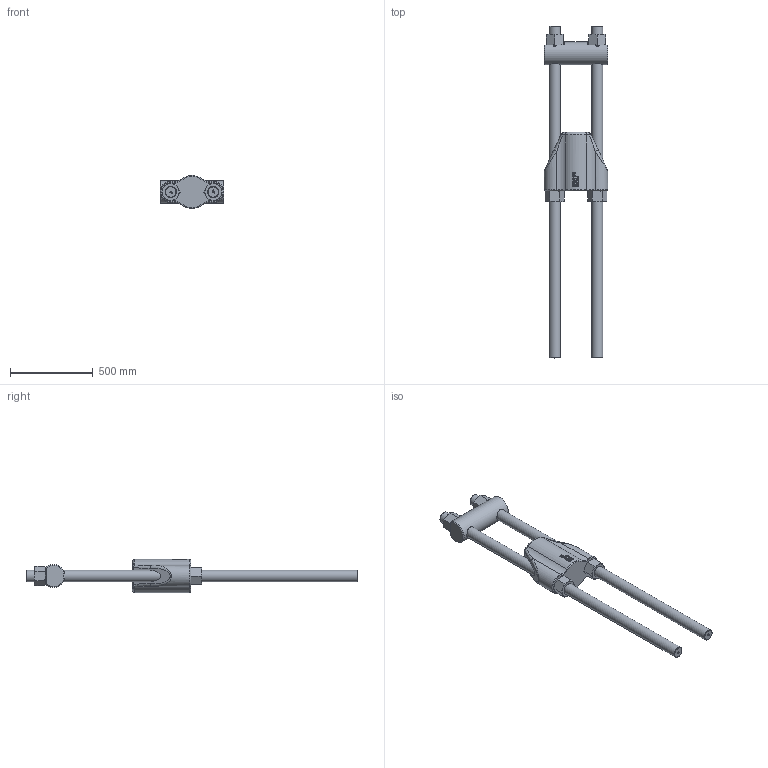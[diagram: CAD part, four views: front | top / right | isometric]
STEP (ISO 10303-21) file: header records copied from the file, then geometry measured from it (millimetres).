
FILE_DESCRIPTION(/* description */ (''),/* implementation_level */ '2;1');
FILE_NAME(/* name */ 'D:\Clienti\Redaelli (inventor)\BRC\STEP\Arrangemet\BRC064 72 111 0.stp',/* time_stamp */ '2021-05-08T08:30:57+02:00',/* author */ ('fabri'),/* organization */ (''),/* preprocessor_version */ 'ST-DEVELOPER v16.13',/* originating_system */ 'Autodesk Inventor 2018',/* authorisation */ '');
FILE_SCHEMA (('CONFIG_CONTROL_DESIGN','AUTOMOTIVE_DESIGN { 1 0 10303 214 3 1 1 }'));
Length unit declared in the file: millimetre
Products named in the file (5): BRC020 72 111 0; BRC020 71 112 0; BRC020 71 114 0_ROD; BRC020 71 113 0; BRC020 71 114 0_NUT
Assembly tree (8 placements, depth 2):
  BRC020 72 111 0
    BRC020 71 112 0
    BRC020 71 114 0_ROD  x2
    BRC020 71 113 0
    BRC020 71 114 0_NUT  x4
Bounding box: 384 x 2000 x 200.01 mm (x, y, z)
Volume: 34626584 mm3; surface area: 1748212 mm2
Topology: 8 solids, 8 shells, 1570 faces, 4146 edges, 2734 vertices
Faces by surface type: plane 780, bspline 655, cone 62, cylinder 49, torus 20, sphere 4
Full cylindrical faces by diameter (mm): 63.67 x4, 68 x2, 71 x4, 138 x1
Entity records: 30534 total; most frequent: CARTESIAN_POINT 11639, ORIENTED_EDGE 4474, DIRECTION 2721, EDGE_CURVE 2237, VERTEX_POINT 1482, LINE 1257, VECTOR 1257, EDGE_LOOP 949
